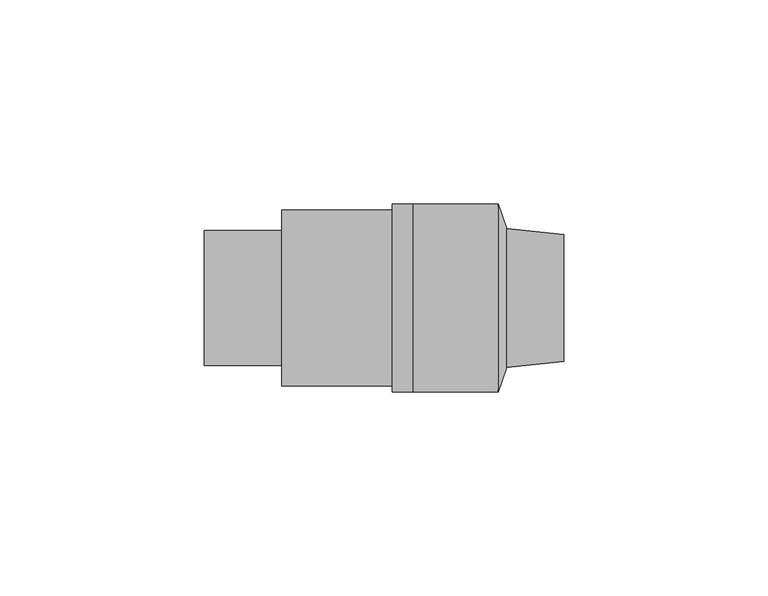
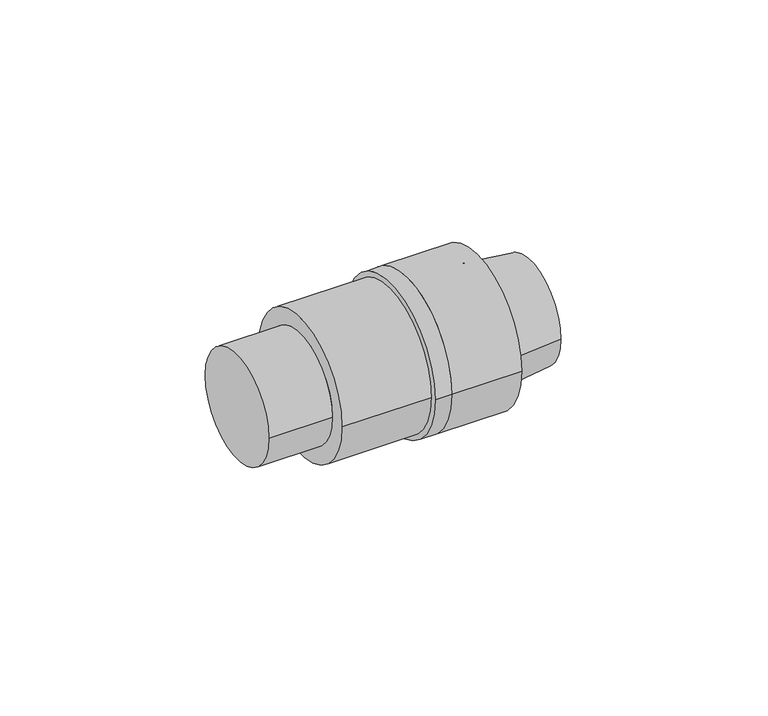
"""IFC4 building model written with IfcOpenShell, lengths in millimetres: pipe fitting geometry, Pipelife - PE - Złącze z gwintem zewnętrznym : 20 x 1''."""

from ifc_helpers import new_model, si_unit, point, frame, origin, origin_2d, place, context, project, spatial, polyline, circle_curve, trimmed, segment, composite_curve, outline, extrude, source, transform, mapped, element, save
from ifc_brep_helpers import plane_surface, cylinder_surface, revolved_surface, advanced_brep


def pipe_fitting_73d87278(model_context):
    return source(origin(), model_context, "Body", "SolidModel", [
        extrude(outline(composite_curve([segment(trimmed(circle_curve(origin_2d(), 23.0), [point((-23.0, 0.0))], [point((23.0, 0.0))], False, "CARTESIAN"), True, "CONTINUOUS"), segment(trimmed(circle_curve(origin_2d(), 23.0), [point((23.0, 0.0))], [point((-23.0, 0.0))], False, "CARTESIAN"), True, "CONTINUOUS")], self_intersect=False), holes=[composite_curve([segment(trimmed(circle_curve(origin_2d(), 10.5), [point((10.5, 0.0))], [point((-10.5, 0.0))], True, "CARTESIAN"), True, "CONTINUOUS"), segment(trimmed(circle_curve(origin_2d(), 10.5), [point((-10.5, 0.0))], [point((10.5, 0.0))], True, "CARTESIAN"), True, "CONTINUOUS")], self_intersect=False)]), frame((20.0, 0.0, 0.0), z_axis=(1.0, 0.0, 0.0), x_axis=(0.0, 1.0, 0.0)), (0.0, 0.0, 1.0), 5.0),
        advanced_brep(
        [(-7.0, -21.5, 0.0), (-7.0, 21.5, 0.0), (-7.0, 16.5, 0.0), (-7.0, -16.5, 0.0), (20.0, -21.5, 0.0), (20.0, 21.5, 0.0), (20.0, -10.5, 0.0), (20.0, 10.5, 0.0), (0.0, -10.5, 0.0), (0.0, 10.5, 0.0), (-26.0, -16.5, 0.0), (-26.0, 16.5, 0.0)],
        [
            (0, 1, circle_curve(frame((-7.0, 0.0, 0.0), z_axis=(-1.0, 0.0, 0.0), x_axis=(0.0, 1.0, 0.0)), 21.5)),
            (1, 0, circle_curve(frame((-7.0, 0.0, 0.0), z_axis=(-1.0, 0.0, 0.0), x_axis=(0.0, 1.0, 0.0)), 21.5)),
            (2, 3, circle_curve(frame((-7.0, 0.0, 0.0), z_axis=(1.0, 0.0, 0.0), x_axis=(0.0, 1.0, 0.0)), 16.5)),
            (3, 2, circle_curve(frame((-7.0, 0.0, 0.0), z_axis=(1.0, 0.0, 0.0), x_axis=(0.0, 1.0, 0.0)), 16.5)),
            (4, 5, circle_curve(frame((20.0, 0.0, 0.0), z_axis=(1.0, 0.0, 0.0), x_axis=(0.0, 1.0, 0.0)), 21.5)),
            (5, 4, circle_curve(frame((20.0, 0.0, 0.0), z_axis=(1.0, 0.0, 0.0), x_axis=(0.0, 1.0, 0.0)), 21.5)),
            (6, 7, circle_curve(frame((20.0, 0.0, 0.0), z_axis=(-1.0, 0.0, 0.0), x_axis=(0.0, 1.0, 0.0)), 10.5)),
            (7, 6, circle_curve(frame((20.0, 0.0, 0.0), z_axis=(-1.0, 0.0, 0.0), x_axis=(0.0, 1.0, 0.0)), 10.5)),
            (0, 4),
            (5, 1),
            (8, 9, circle_curve(frame((0.0, 0.0, 0.0), z_axis=(1.0, 0.0, 0.0), x_axis=(0.0, 1.0, 0.0)), 10.5)),
            (9, 8, circle_curve(frame((0.0, 0.0, 0.0), z_axis=(1.0, 0.0, 0.0), x_axis=(0.0, 1.0, 0.0)), 10.5)),
            (9, 7),
            (6, 8),
            (10, 11, circle_curve(frame((-26.0, 0.0, 0.0), z_axis=(-1.0, 0.0, 0.0), x_axis=(0.0, 1.0, 0.0)), 16.5)),
            (11, 10, circle_curve(frame((-26.0, 0.0, 0.0), z_axis=(-1.0, 0.0, 0.0), x_axis=(0.0, 1.0, 0.0)), 16.5)),
            (10, 3),
            (2, 11),
        ],
        [
            plane_surface(frame((-7.0, 0.0, 0.0), z_axis=(-1.0, 0.0, 0.0), x_axis=(0.0, 0.0, 1.0))),
            plane_surface(frame((20.0, 0.0, 0.0), z_axis=(1.0, 0.0, 0.0), x_axis=(0.0, 0.0, 1.0))),
            cylinder_surface(frame((-7.0, 0.0, 0.0), z_axis=(-1.0, 0.0, 0.0), x_axis=(0.0, 1.0, 0.0)), 21.5),
            plane_surface(frame((0.0, 0.0, 0.0), z_axis=(1.0, 0.0, 0.0), x_axis=(0.0, 0.0, 1.0))),
            revolved_surface(polyline([(0.0, 10.5, 0.0), (20.0, 10.5, 0.0)]), (0.0, 0.0, 0.0), (-1.0, 0.0, 0.0)),
            plane_surface(frame((-26.0, 0.0, 0.0), z_axis=(-1.0, 0.0, 0.0), x_axis=(0.0, 0.0, 1.0))),
            cylinder_surface(frame((-26.0, 0.0, 0.0), z_axis=(-1.0, 0.0, 0.0), x_axis=(0.0, 1.0, 0.0)), 16.5),
        ],
        [
            (0, [[1, 2], [3, 4]]),
            (1, [[5, 6], [7, 8]]),
            (2, [[-1, 9, -6, 10]]),
            (2, [[-2, -10, -5, -9]]),
            (3, [[11, 12]]),
            (4, [[-12, 13, -7, 14]]),
            (4, [[-11, -14, -8, -13]]),
            (5, [[15, 16]]),
            (6, [[-15, 17, -3, 18]]),
            (6, [[-16, -18, -4, -17]]),
        ],
    ),
        advanced_brep(
        [(25.0, -23.0, 0.0), (25.0, 23.0, 0.0), (25.0, 10.5, 0.0), (25.0, -10.5, 0.0), (46.0, -23.0, 0.0), (46.0, 23.0, 0.0), (62.0, -15.5, 0.0), (62.0, 15.5, 0.0), (62.0, -10.5, 0.0), (62.0, 10.5, 0.0), (48.0, -17.0, 0.0), (48.0, 17.0, 0.0)],
        [
            (0, 1, circle_curve(frame((25.0, 0.0, 0.0), z_axis=(-1.0, 0.0, 0.0), x_axis=(0.0, 1.0, 0.0)), 23.0)),
            (1, 0, circle_curve(frame((25.0, 0.0, 0.0), z_axis=(-1.0, 0.0, 0.0), x_axis=(0.0, 1.0, 0.0)), 23.0)),
            (2, 3, circle_curve(frame((25.0, 0.0, 0.0), z_axis=(1.0, 0.0, 0.0), x_axis=(0.0, 1.0, 0.0)), 10.5)),
            (3, 2, circle_curve(frame((25.0, 0.0, 0.0), z_axis=(1.0, 0.0, 0.0), x_axis=(0.0, 1.0, 0.0)), 10.5)),
            (0, 4),
            (4, 5, circle_curve(frame((46.0, 0.0, 0.0), z_axis=(-1.0, 0.0, 0.0), x_axis=(0.0, 1.0, 0.0)), 23.0)),
            (5, 1),
            (5, 4, circle_curve(frame((46.0, 0.0, 0.0), z_axis=(-1.0, 0.0, 0.0), x_axis=(0.0, 1.0, 0.0)), 23.0)),
            (6, 7, circle_curve(frame((62.0, 0.0, 0.0), z_axis=(1.0, 0.0, 0.0), x_axis=(0.0, -1.0, 0.0)), 15.5)),
            (7, 6, circle_curve(frame((62.0, 0.0, 0.0), z_axis=(1.0, 0.0, 0.0), x_axis=(0.0, 1.0, 0.0)), 15.5)),
            (8, 9, circle_curve(frame((62.0, 0.0, 0.0), z_axis=(-1.0, 0.0, 0.0), x_axis=(0.0, 1.0, 0.0)), 10.5)),
            (9, 8, circle_curve(frame((62.0, 0.0, 0.0), z_axis=(-1.0, 0.0, 0.0), x_axis=(0.0, 1.0, 0.0)), 10.5)),
            (6, 10),
            (10, 11, circle_curve(frame((48.0, 0.0, 0.0), z_axis=(1.0, 0.0, 0.0), x_axis=(0.0, -1.0, 0.0)), 17.0)),
            (11, 7),
            (11, 10, circle_curve(frame((48.0, 0.0, 0.0), z_axis=(1.0, 0.0, 0.0), x_axis=(0.0, 1.0, 0.0)), 17.0)),
            (8, 3),
            (2, 9),
            (5, 11),
            (10, 4),
        ],
        [
            plane_surface(frame((25.0, 0.0, 0.0), z_axis=(-1.0, 0.0, 0.0), x_axis=(0.0, 0.0, 1.0))),
            cylinder_surface(frame((25.0, 0.0, 0.0), z_axis=(-1.0, 0.0, 0.0), x_axis=(0.0, 1.0, 0.0)), 23.0),
            plane_surface(frame((62.0, 0.0, 0.0), z_axis=(1.0, 0.0, 0.0), x_axis=(0.0, 0.0, -1.0))),
            revolved_surface(polyline([(62.0, -15.500000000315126, 0.0), (48.0, -17.0, 0.0)]), (206.6666667, 0.0, 0.0), (-1.0, 0.0, 0.0)),
            revolved_surface(polyline([(62.0, 15.500000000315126, 0.0), (48.0, 17.0, 0.0)]), (206.6666667, 0.0, 0.0), (-1.0, 0.0, 0.0)),
            revolved_surface(polyline([(25.0, 10.5, 0.0), (62.0, 10.5, 0.0)]), (0.0, 0.0, 0.0), (-1.0, 0.0, 0.0)),
            revolved_surface(polyline([(48.0, 17.00000002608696, 0.0), (46.0, 23.0, 0.0)]), (53.6666667, 0.0, 0.0), (-1.0, 0.0, 0.0)),
        ],
        [
            (0, [[1, 2], [3, 4]]),
            (1, [[-1, 5, 6, 7]]),
            (1, [[-2, -7, 8, -5]]),
            (2, [[9, 10], [11, 12]]),
            (3, [[-9, 13, 14, 15]]),
            (4, [[-10, -15, 16, -13]]),
            (5, [[17, -3, 18, -11]]),
            (5, [[-17, -12, -18, -4]]),
            (6, [[19, -14, 20, -8]]),
            (6, [[-19, -6, -20, -16]]),
        ],
    ),
    ])


if __name__ == "__main__":
    model = new_model("IFC4")
    model_context = context("Model", 3, world=origin())
    ifc_project = project(units=[si_unit("LENGTHUNIT", "METRE", prefix="MILLI")], contexts=[model_context])
    site = spatial("IfcSite", under=ifc_project)
    building = spatial("IfcBuilding", under=site)
    placement = place(None, origin())
    pipe_fitting_shape = pipe_fitting_73d87278(model_context)
    element("IfcPipeFitting", 1, ObjectType="Pipelife - PE - Złącze z gwintem zewnętrznym : 20 x 1''", at=placement, inside=building, context=model_context, shape_type="MappedRepresentation", body=[
        mapped(pipe_fitting_shape, transform((0.0, 0.0, 0.0), x_axis=(1.0, 0.0, 0.0), y_axis=(0.0, 1.0, 0.0), z_axis=(0.0, 0.0, 1.0))),
    ])
    save(model, "model.ifc")
